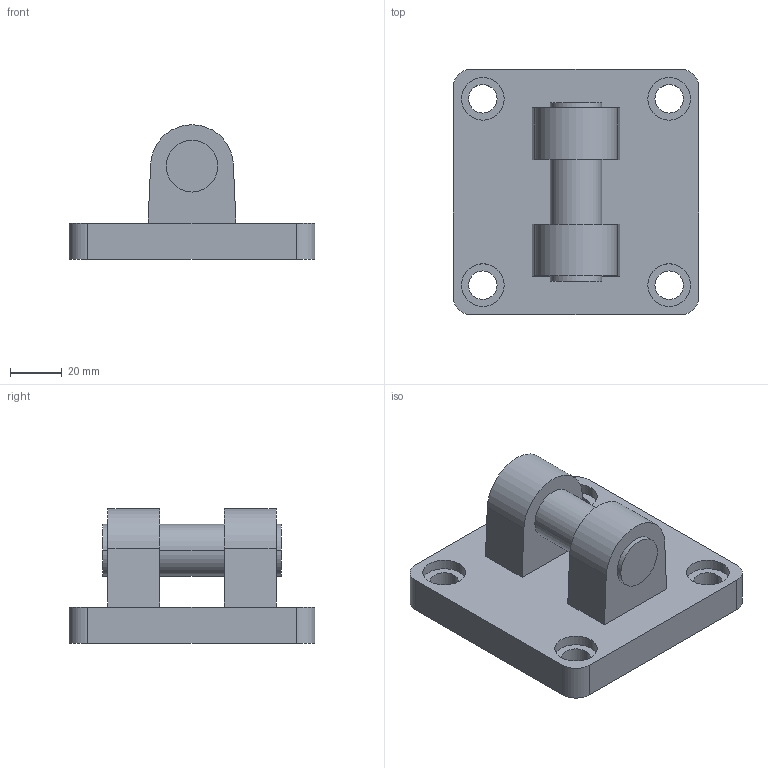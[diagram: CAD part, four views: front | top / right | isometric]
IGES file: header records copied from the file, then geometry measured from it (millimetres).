
Global section: file name: No Iges File Name specified; native system: AutoDesk Inventor R11.0; preprocessor: AutoDesk Inventor Iges Exporter R11.0; author: No Author specified; organization: No Organization specified; date: 20060711.173906; units: millimetre
Bounding box: 95 x 95 x 52 mm (x, y, z)
Volume: 164773.1 mm3; surface area: 33383.2 mm2
Topology: 1 solids, 1 shells, 51 faces, 120 edges, 80 vertices
Faces by surface type: bspline 23, plane 16, cylinder 12
